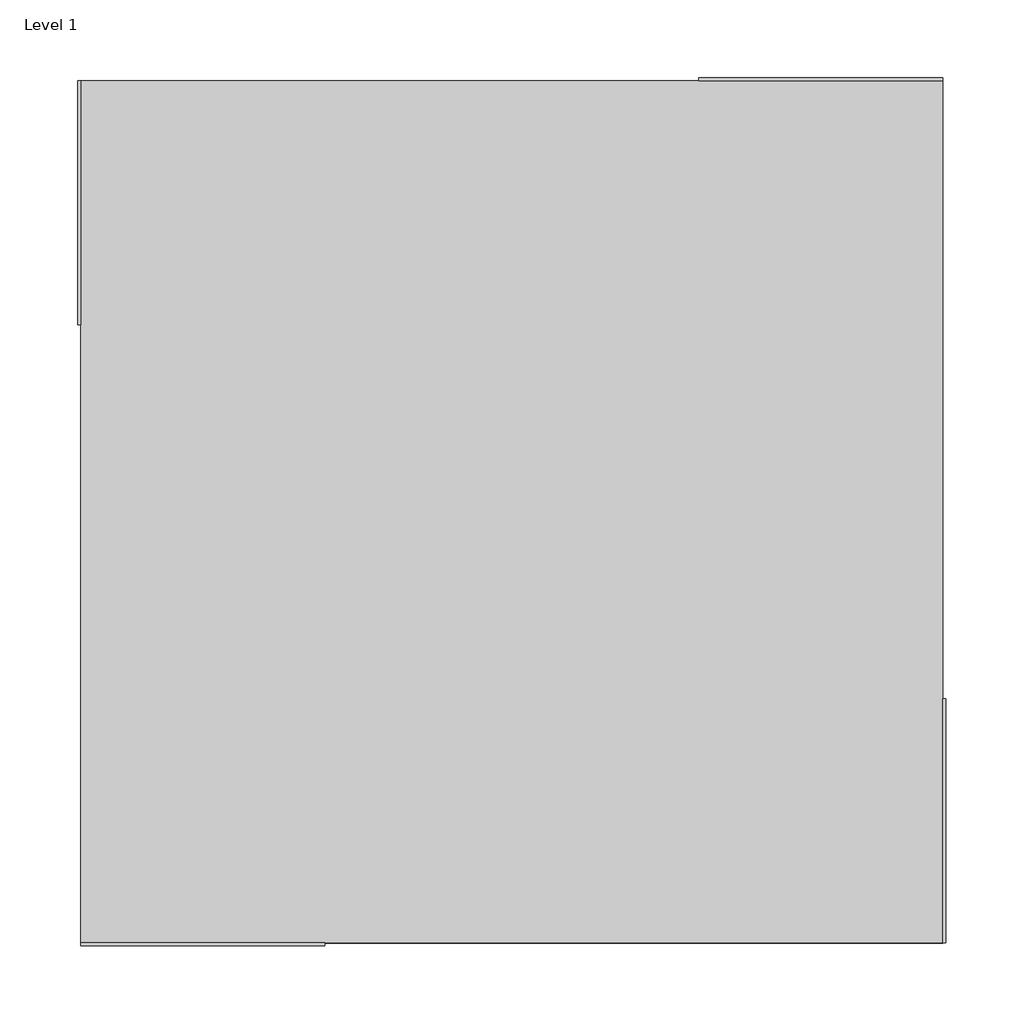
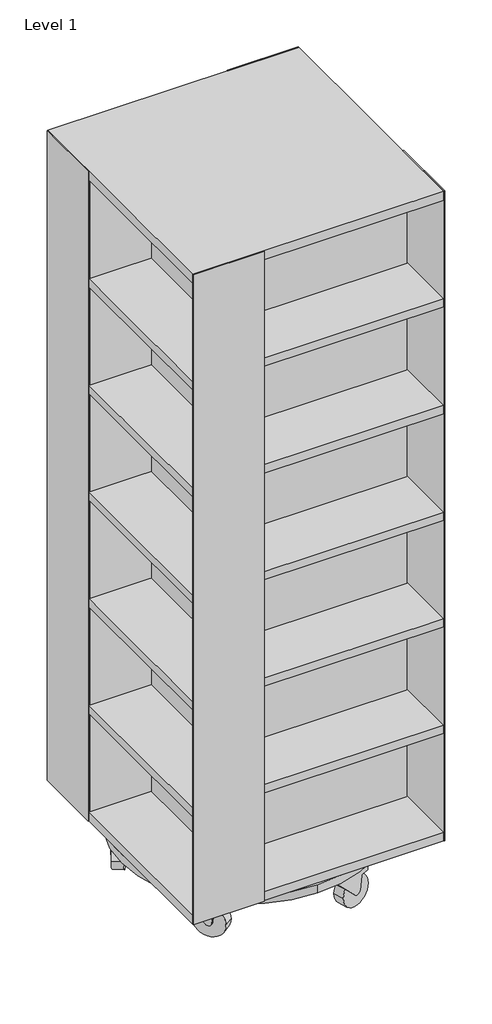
# One storey: 1 furniture element.
"""IFC4 building model written with IfcOpenShell, lengths in millimetres."""

from ifc_helpers import new_model, si_unit, origin, place, context, project, spatial, transform, mapped, element, save
from components import furniture_fe416c3a

model = new_model("IFC4")

# Units and contexts
model_context = context("Model", 3, world=origin())
ifc_project = project(units=[si_unit("LENGTHUNIT", "METRE", prefix="MILLI")], contexts=[model_context])

# Site, building, storey
site = spatial("IfcSite", under=ifc_project)
building = spatial("IfcBuilding", under=site)
storey = spatial("IfcBuildingStorey", under=building, Name="Level 1", Elevation=0.0)

# Furniture
placement = place(None, origin())
furniture_shape = furniture_fe416c3a(model_context)
element("IfcFurniture", 1, ObjectType="BK Library - Astrid : BK Library - Astrid", at=placement, inside=storey, context=model_context, shape_type="MappedRepresentation", body=[
    mapped(furniture_shape, transform((-2769.7402318, 2197.9079464, -688.6569781), x_axis=(0.0, 1.0, 0.0), y_axis=(-1.0, 0.0, 0.0), z_axis=(0.0, 0.0, 1.0))),
])

save(model, "model.ifc")
